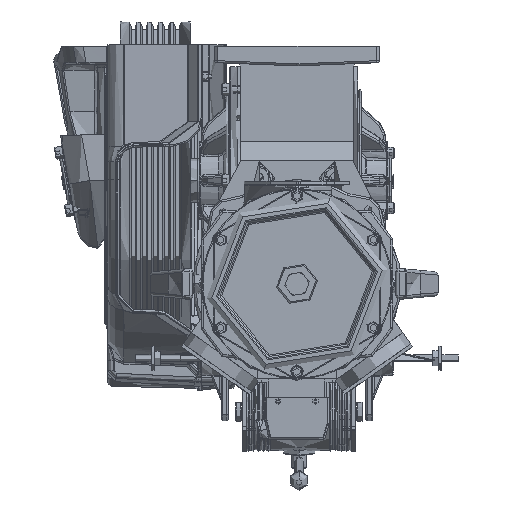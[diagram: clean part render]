
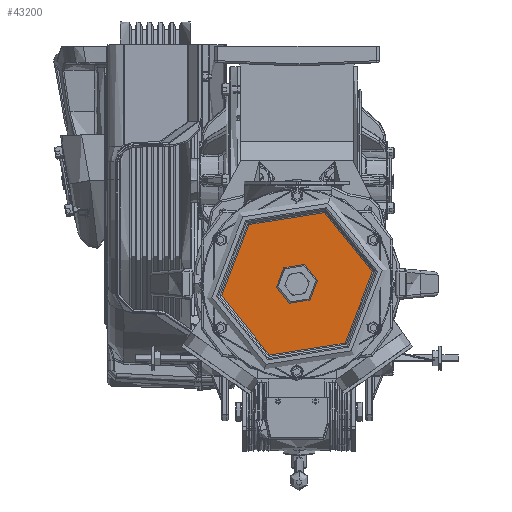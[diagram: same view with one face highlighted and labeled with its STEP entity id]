
A CAD part, front view. The second image highlights one B-rep face of the part: STEP entity #43200.
In plain terms, the highlighted planar face has unit normal (0, -1, 0).
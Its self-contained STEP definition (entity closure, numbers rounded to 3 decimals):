
#12141 = ORIENTED_EDGE ( 'NONE', *, *, #350998, .F. ) ;
#12149 = DIRECTION ( 'NONE',  ( -0.358, 0., -0.934 ) ) ;
#13792 = DIRECTION ( 'NONE',  ( -0.358, 0., -0.934 ) ) ;
#25103 = CIRCLE ( 'NONE', #236491, 30.156 ) ;
#25624 = AXIS2_PLACEMENT_3D ( 'NONE', #248908, #54160, #204228 ) ;
#43200 = ADVANCED_FACE ( 'NONE', ( #246823, #188089 ), #300110, .T. ) ;
#48444 = DIRECTION ( 'NONE',  ( 0., -1., 0. ) ) ;
#52808 = EDGE_CURVE ( 'NONE', #346470, #296351, #315166, .T. ) ;
#54160 = DIRECTION ( 'NONE',  ( 0., -1., 0. ) ) ;
#89450 = DIRECTION ( 'NONE',  ( 0., -1., 0. ) ) ;
#132979 = DIRECTION ( 'NONE',  ( -0.358, 0., -0.934 ) ) ;
#133903 = CARTESIAN_POINT ( 'NONE',  ( 48.046, -502.305, -52.589 ) ) ;
#146451 = ORIENTED_EDGE ( 'NONE', *, *, #304343, .T. ) ;
#188089 = FACE_BOUND ( 'NONE', #214175, .T. ) ;
#193389 = CARTESIAN_POINT ( 'NONE',  ( 98.526, -502.305, 78.973 ) ) ;
#200188 = VERTEX_POINT ( 'NONE', #281165 ) ;
#204228 = DIRECTION ( 'NONE',  ( -0.358, 0., -0.934 ) ) ;
#205107 = ORIENTED_EDGE ( 'NONE', *, *, #52808, .T. ) ;
#208463 = EDGE_LOOP ( 'NONE', ( #146451, #205107 ) ) ;
#214175 = EDGE_LOOP ( 'NONE', ( #261991, #12141 ) ) ;
#215770 = DIRECTION ( 'NONE',  ( 0., -1., 0. ) ) ;
#222657 = CARTESIAN_POINT ( 'NONE',  ( 58.849, -502.305, -24.434 ) ) ;
#224494 = DIRECTION ( 'NONE',  ( -0.358, 0., -0.934 ) ) ;
#227755 = EDGE_CURVE ( 'NONE', #200188, #342318, #342406, .T. ) ;
#235119 = CARTESIAN_POINT ( 'NONE',  ( 19.172, -502.305, -127.84 ) ) ;
#236491 = AXIS2_PLACEMENT_3D ( 'NONE', #222657, #308956, #224494 ) ;
#241527 = CARTESIAN_POINT ( 'NONE',  ( 58.849, -502.305, -24.434 ) ) ;
#246823 = FACE_OUTER_BOUND ( 'NONE', #208463, .T. ) ;
#248908 = CARTESIAN_POINT ( 'NONE',  ( 58.849, -502.305, -24.434 ) ) ;
#261991 = ORIENTED_EDGE ( 'NONE', *, *, #227755, .F. ) ;
#263805 = CARTESIAN_POINT ( 'NONE',  ( 58.849, -502.305, -24.434 ) ) ;
#281165 = CARTESIAN_POINT ( 'NONE',  ( 69.652, -502.305, 3.721 ) ) ;
#296351 = VERTEX_POINT ( 'NONE', #235119 ) ;
#300110 = PLANE ( 'NONE',  #351248 ) ;
#302254 = CIRCLE ( 'NONE', #343468, 110.757 ) ;
#304343 = EDGE_CURVE ( 'NONE', #296351, #346470, #302254, .T. ) ;
#308956 = DIRECTION ( 'NONE',  ( 0., -1., 0. ) ) ;
#315166 = CIRCLE ( 'NONE', #350490, 110.757 ) ;
#331267 = CARTESIAN_POINT ( 'NONE',  ( 163.415, -502.305, -64.556 ) ) ;
#342318 = VERTEX_POINT ( 'NONE', #133903 ) ;
#342406 = CIRCLE ( 'NONE', #25624, 30.156 ) ;
#343468 = AXIS2_PLACEMENT_3D ( 'NONE', #241527, #215770, #13792 ) ;
#346470 = VERTEX_POINT ( 'NONE', #193389 ) ;
#350490 = AXIS2_PLACEMENT_3D ( 'NONE', #263805, #89450, #12149 ) ;
#350998 = EDGE_CURVE ( 'NONE', #342318, #200188, #25103, .T. ) ;
#351248 = AXIS2_PLACEMENT_3D ( 'NONE', #331267, #48444, #132979 ) ;
